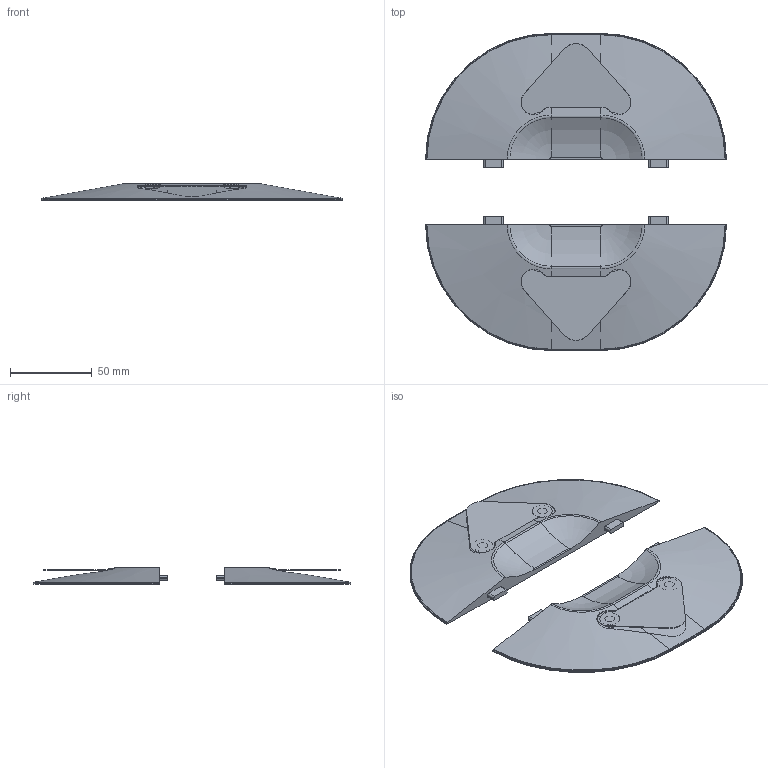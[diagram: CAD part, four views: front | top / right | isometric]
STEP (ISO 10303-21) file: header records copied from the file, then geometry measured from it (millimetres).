
FILE_DESCRIPTION(/* description */ ('STEP AP203'),/* implementation_level */ '2;1');
FILE_NAME(/* name */ '02084HHXLS01',/* time_stamp */ '2026-01-27T14:41:34+01:00',/* author */ ('License CC BY-ND 4.0'),/* organization */ ('CADENAS'),/* preprocessor_version */ 'ST-DEVELOPER v20',/* originating_system */ 'PARTsolutions',/* authorisation */ ' ');
FILE_SCHEMA (('CONFIG_CONTROL_DESIGN'));
Length unit declared in the file: millimetre
Products named in the file (2): 02084HHXLS01; 02084HHXLS01-1
Assembly tree (2 placements, depth 2):
  02084HHXLS01
    02084HHXLS01-1  x2
Bounding box: 183.97 x 193.97 x 10.28 mm (x, y, z)
Volume: 121294.9 mm3; surface area: 57605.9 mm2
Topology: 2 solids, 2 shells, 198 faces, 506 edges, 324 vertices
Faces by surface type: plane 70, cylinder 60, torus 36, cone 32
Entity records: 3021 total; most frequent: CARTESIAN_POINT 623, DIRECTION 521, ORIENTED_EDGE 470, EDGE_CURVE 235, AXIS2_PLACEMENT_3D 210, VERTEX_POINT 154, EDGE_LOOP 115, FACE_BOUND 115
